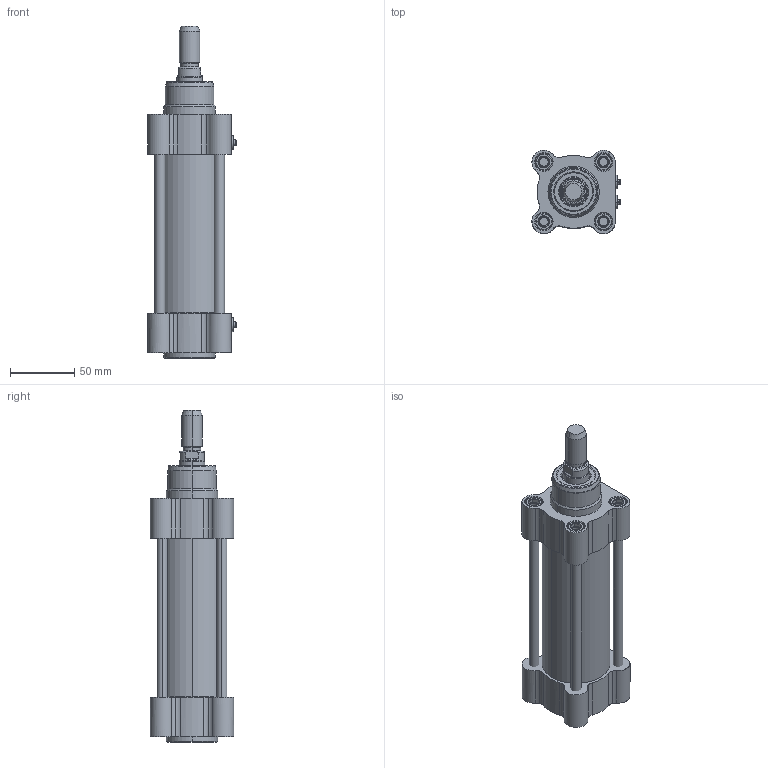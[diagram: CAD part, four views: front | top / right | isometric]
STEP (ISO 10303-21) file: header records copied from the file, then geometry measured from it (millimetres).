
FILE_DESCRIPTION (( 'STEP AP203' ), '1' );
FILE_NAME ('CTMI50-80.STEP', '2020-03-26T19:18:14', ( '' ), ( '' ), 'SwSTEP 2.0', 'SolidWorks 2019', '' );
FILE_SCHEMA (( 'CONFIG_CONTROL_DESIGN' ));
Length unit declared in the file: millimetre
Products named in the file (1): CTMI50-80
Bounding box: 68.69 x 64.99 x 259 mm (x, y, z)
Surface area: 131595.6 mm2 (no closed solid volume)
Topology: 0 solids, 26 shells, 733 faces, 1698 edges, 1052 vertices
Faces by surface type: cone 229, cylinder 204, plane 196, torus 88, bspline 16
Entity records: 26997 total; most frequent: CARTESIAN_POINT 11533, ORIENTED_EDGE 3340, DIRECTION 2906, EDGE_CURVE 1698, AXIS2_PLACEMENT_3D 1202, VERTEX_POINT 1052, EDGE_LOOP 806, ADVANCED_FACE 733
